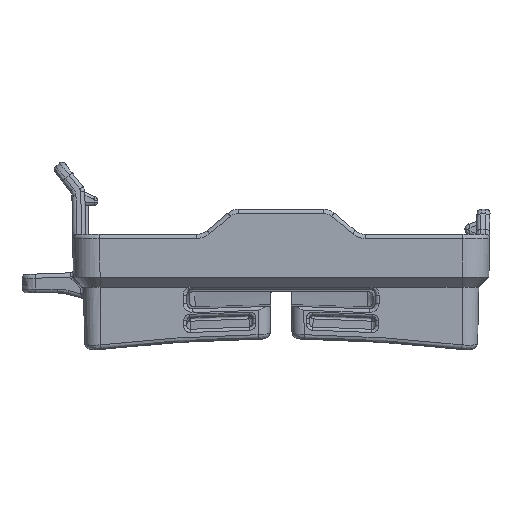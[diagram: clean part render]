
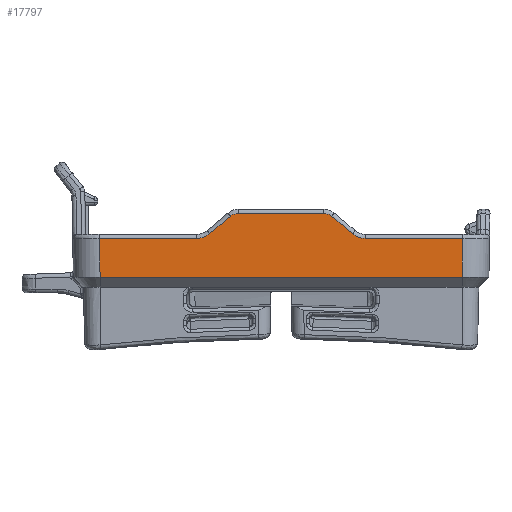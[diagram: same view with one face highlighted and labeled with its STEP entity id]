
A CAD part, left-side view. The second image highlights one B-rep face of the part: STEP entity #17797.
In plain terms, the highlighted planar face has unit normal (-1, 0, -0.018).
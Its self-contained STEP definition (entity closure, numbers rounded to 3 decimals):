
#4110=CARTESIAN_POINT('',(-41.949,-22.399,
-23.109));
#4121=CARTESIAN_POINT('',(-41.865,-22.316,
-27.9));
#4142=DIRECTION('',(0.,-1.,0.));
#4143=VECTOR('',#4142,11.977);
#4144=CARTESIAN_POINT('',(-41.949,-10.422,
-23.109));
#4145=LINE('',#4144,#4143);
#4146=DIRECTION('',(0.017,0.017,-1.));
#4147=VECTOR('',#4146,4.793);
#4148=CARTESIAN_POINT('',(-41.949,-22.399,
-23.109));
#4149=LINE('',#4148,#4147);
#4150=DIRECTION('',(0.,-1.,0.));
#4151=VECTOR('',#4150,44.631);
#4152=CARTESIAN_POINT('',(-41.865,22.316,
-27.9));
#4153=LINE('',#4152,#4151);
#4154=DIRECTION('',(-0.017,0.017,1.));
#4155=VECTOR('',#4154,4.793);
#4156=CARTESIAN_POINT('',(-41.865,22.316,
-27.9));
#4157=LINE('',#4156,#4155);
#4158=DIRECTION('',(0.,-1.,0.));
#4159=VECTOR('',#4158,11.977);
#4160=CARTESIAN_POINT('',(-41.949,22.399,
-23.109));
#4161=LINE('',#4160,#4159);
#4162=CARTESIAN_POINT('',(-41.949,10.422,
-23.109));
#4163=CARTESIAN_POINT('',(-41.949,10.287,
-23.109));
#4164=CARTESIAN_POINT('',(-41.949,10.013,
-23.088));
#4165=CARTESIAN_POINT('',(-41.951,9.573,
-22.975));
#4166=CARTESIAN_POINT('',(-41.954,9.156,
-22.78));
#4167=CARTESIAN_POINT('',(-41.957,8.924,
-22.615));
#4168=CARTESIAN_POINT('',(-41.959,8.815,
-22.524));
#4170=DIRECTION('',(-0.011,-0.766,0.643));
#4171=VECTOR('',#4170,3.367);
#4172=CARTESIAN_POINT('',(-41.959,8.815,
-22.524));
#4173=LINE('',#4172,#4171);
#4174=CARTESIAN_POINT('',(-41.997,6.236,
-20.36));
#4175=CARTESIAN_POINT('',(-41.998,6.146,
-20.284));
#4176=CARTESIAN_POINT('',(-42.,5.953,
-20.157));
#4177=CARTESIAN_POINT('',(-42.002,5.619,
-20.035));
#4178=CARTESIAN_POINT('',(-42.003,5.39,
-20.009));
#4179=CARTESIAN_POINT('',(-42.003,5.272,
-20.009));
#4181=DIRECTION('',(0.,-1.,0.));
#4182=VECTOR('',#4181,10.544);
#4183=CARTESIAN_POINT('',(-42.003,5.272,
-20.009));
#4184=LINE('',#4183,#4182);
#4185=CARTESIAN_POINT('',(-42.003,-5.272,
-20.009));
#4186=CARTESIAN_POINT('',(-42.003,-5.39,
-20.009));
#4187=CARTESIAN_POINT('',(-42.002,-5.619,
-20.035));
#4188=CARTESIAN_POINT('',(-42.,-5.953,
-20.157));
#4189=CARTESIAN_POINT('',(-41.998,-6.146,
-20.284));
#4190=CARTESIAN_POINT('',(-41.997,-6.236,
-20.36));
#4192=DIRECTION('',(0.011,-0.766,-0.643));
#4193=VECTOR('',#4192,3.367);
#4194=CARTESIAN_POINT('',(-41.997,-6.236,
-20.36));
#4195=LINE('',#4194,#4193);
#4196=CARTESIAN_POINT('',(-41.959,-8.815,
-22.524));
#4197=CARTESIAN_POINT('',(-41.957,-8.919,
-22.611));
#4198=CARTESIAN_POINT('',(-41.955,-9.144,
-22.772));
#4199=CARTESIAN_POINT('',(-41.951,-9.555,
-22.969));
#4200=CARTESIAN_POINT('',(-41.949,-9.999,
-23.086));
#4201=CARTESIAN_POINT('',(-41.949,-10.281,
-23.109));
#4202=CARTESIAN_POINT('',(-41.949,-10.422,
-23.109));
#9617=VERTEX_POINT('',#4121);
#9619=CARTESIAN_POINT('',(-41.865,22.316,
-27.9));
#9620=VERTEX_POINT('',#9619);
#10145=VERTEX_POINT('',#4110);
#10147=CARTESIAN_POINT('',(-41.949,-10.422,
-23.109));
#10148=VERTEX_POINT('',#10147);
#10151=VERTEX_POINT('',#4196);
#10153=CARTESIAN_POINT('',(-41.997,-6.236,
-20.36));
#10154=VERTEX_POINT('',#10153);
#10157=VERTEX_POINT('',#4185);
#10159=CARTESIAN_POINT('',(-42.003,5.272,
-20.009));
#10160=VERTEX_POINT('',#10159);
#10163=VERTEX_POINT('',#4174);
#10165=CARTESIAN_POINT('',(-41.959,8.815,
-22.524));
#10166=VERTEX_POINT('',#10165);
#10169=VERTEX_POINT('',#4162);
#10171=CARTESIAN_POINT('',(-41.949,22.399,
-23.109));
#10172=VERTEX_POINT('',#10171);
#17769=CARTESIAN_POINT('',(-41.872,33.,-27.528));
#17770=DIRECTION('',(1.,0.,0.017));
#17771=DIRECTION('',(-0.017,0.,1.));
#17772=AXIS2_PLACEMENT_3D('',#17769,#17770,#17771);
#17773=PLANE('',#17772);
#17774=ORIENTED_EDGE('',*,*,#17759,.T.);
#17775=ORIENTED_EDGE('',*,*,#17698,.T.);
#17776=ORIENTED_EDGE('',*,*,#15085,.F.);
#17778=ORIENTED_EDGE('',*,*,#17777,.T.);
#17780=ORIENTED_EDGE('',*,*,#17779,.T.);
#17782=ORIENTED_EDGE('',*,*,#17781,.T.);
#17784=ORIENTED_EDGE('',*,*,#17783,.T.);
#17786=ORIENTED_EDGE('',*,*,#17785,.T.);
#17788=ORIENTED_EDGE('',*,*,#17787,.T.);
#17790=ORIENTED_EDGE('',*,*,#17789,.T.);
#17792=ORIENTED_EDGE('',*,*,#17791,.T.);
#17794=ORIENTED_EDGE('',*,*,#17793,.T.);
#17795=EDGE_LOOP('',(#17774,#17775,#17776,#17778,#17780,#17782,#17784,#17786,
#17788,#17790,#17792,#17794));
#17796=FACE_OUTER_BOUND('',#17795,.F.);
#4169=B_SPLINE_CURVE_WITH_KNOTS('',3,(#4162,#4163,#4164,#4165,#4166,#4167,
#4168),.UNSPECIFIED.,.F.,.F.,(4,1,1,1,4),(0.,0.25,0.5,0.75,1.),
.UNSPECIFIED.);
#4180=B_SPLINE_CURVE_WITH_KNOTS('',3,(#4174,#4175,#4176,#4177,#4178,#4179),
.UNSPECIFIED.,.F.,.F.,(4,1,1,4),(0.,0.333,0.667,1.),
.UNSPECIFIED.);
#4191=B_SPLINE_CURVE_WITH_KNOTS('',3,(#4185,#4186,#4187,#4188,#4189,#4190),
.UNSPECIFIED.,.F.,.F.,(4,1,1,4),(0.,0.333,0.667,1.),
.UNSPECIFIED.);
#4203=B_SPLINE_CURVE_WITH_KNOTS('',3,(#4196,#4197,#4198,#4199,#4200,#4201,
#4202),.UNSPECIFIED.,.F.,.F.,(4,1,1,1,4),(0.,0.25,0.5,0.75,1.),
.UNSPECIFIED.);
#15085=EDGE_CURVE('',#9620,#9617,#4153,.T.);
#17698=EDGE_CURVE('',#10145,#9617,#4149,.T.);
#17759=EDGE_CURVE('',#10148,#10145,#4145,.T.);
#17777=EDGE_CURVE('',#9620,#10172,#4157,.T.);
#17779=EDGE_CURVE('',#10172,#10169,#4161,.T.);
#17781=EDGE_CURVE('',#10169,#10166,#4169,.T.);
#17783=EDGE_CURVE('',#10166,#10163,#4173,.T.);
#17785=EDGE_CURVE('',#10163,#10160,#4180,.T.);
#17787=EDGE_CURVE('',#10160,#10157,#4184,.T.);
#17789=EDGE_CURVE('',#10157,#10154,#4191,.T.);
#17791=EDGE_CURVE('',#10154,#10151,#4195,.T.);
#17793=EDGE_CURVE('',#10151,#10148,#4203,.T.);
#17797=ADVANCED_FACE('',(#17796),#17773,.F.);
